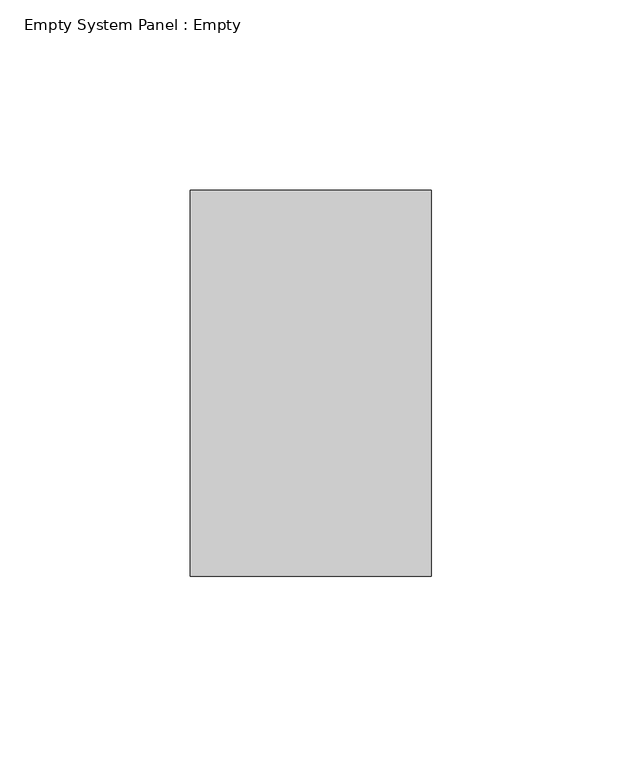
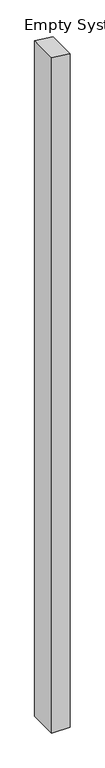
"""IFC4 building model written with IfcOpenShell, lengths in millimetres: plate geometry, Empty System Panel : Empty."""

from ifc_helpers import new_model, si_unit, frame, origin, place, context, project, spatial, polyline, outline, extrude, source, transform, mapped, element, save


def empty_system_panel_empty_73ef6031(model_context):
    return source(origin(), model_context, "Body", "SweptSolid", [
        extrude(outline(polyline([(0.0, -31.75), (0.0, 31.75), (2460.1032707, 31.75), (2467.2056298, -31.75), (0.0, -31.75)])), frame((0.0, -50.8, 0.0), z_axis=(0.0, 1.0, 0.0), x_axis=(0.0, 0.0, 1.0)), (0.0, 0.0, 1.0), 101.6),
    ])


if __name__ == "__main__":
    model = new_model("IFC4")
    model_context = context("Model", 3, world=origin())
    ifc_project = project(units=[si_unit("LENGTHUNIT", "METRE", prefix="MILLI")], contexts=[model_context])
    site = spatial("IfcSite", under=ifc_project)
    building = spatial("IfcBuilding", under=site)
    placement = place(None, origin())
    empty_system_panel_empty_shape = empty_system_panel_empty_73ef6031(model_context)
    element("IfcPlate", 1, ObjectType="Empty System Panel : Empty", at=placement, inside=building, context=model_context, shape_type="MappedRepresentation", body=[
        mapped(empty_system_panel_empty_shape, transform((0.0, 0.0, 0.0), x_axis=(1.0, 0.0, 0.0), y_axis=(0.0, 1.0, 0.0), z_axis=(0.0, 0.0, 1.0))),
    ])
    save(model, "model.ifc")
